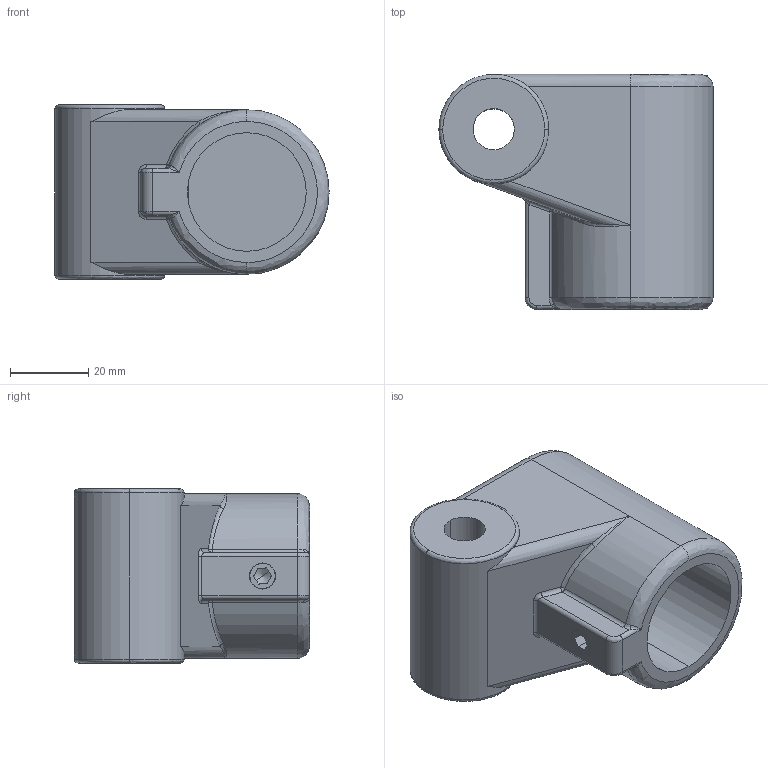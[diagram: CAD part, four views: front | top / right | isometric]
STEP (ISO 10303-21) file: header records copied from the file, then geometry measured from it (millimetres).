
FILE_DESCRIPTION (( 'STEP AP214' ), '1' );
FILE_NAME ('31000410057.STEP', '2024-09-02T09:53:44', ( '' ), ( '' ), 'SwSTEP 2.0', 'SolidWorks 2016', '' );
FILE_SCHEMA (( 'AUTOMOTIVE_DESIGN' ));
Length unit declared in the file: millimetre
Products named in the file (3): DIN 913  (Regelgewinde) M8 x 12; 2411-schale 1-10,5; 31000410057
Assembly tree (2 placements, depth 2):
  31000410057
    2411-schale 1-10,5
    DIN 913  (Regelgewinde) M8 x 12
Bounding box: 70 x 60 x 44.5 mm (x, y, z)
Volume: 79436.6 mm3; surface area: 22221.1 mm2
Topology: 2 solids, 2 shells, 74 faces, 190 edges, 116 vertices
Faces by surface type: cylinder 27, bspline 20, plane 19, cone 6, sphere 2
Entity records: 4469 total; most frequent: CARTESIAN_POINT 1953, ORIENTED_EDGE 368, DIRECTION 285, EDGE_CURVE 184, VERTEX_POINT 116, AXIS2_PLACEMENT_3D 111, UNCERTAINTY_MEASURE_WITH_UNIT 81, EDGE_LOOP 80
